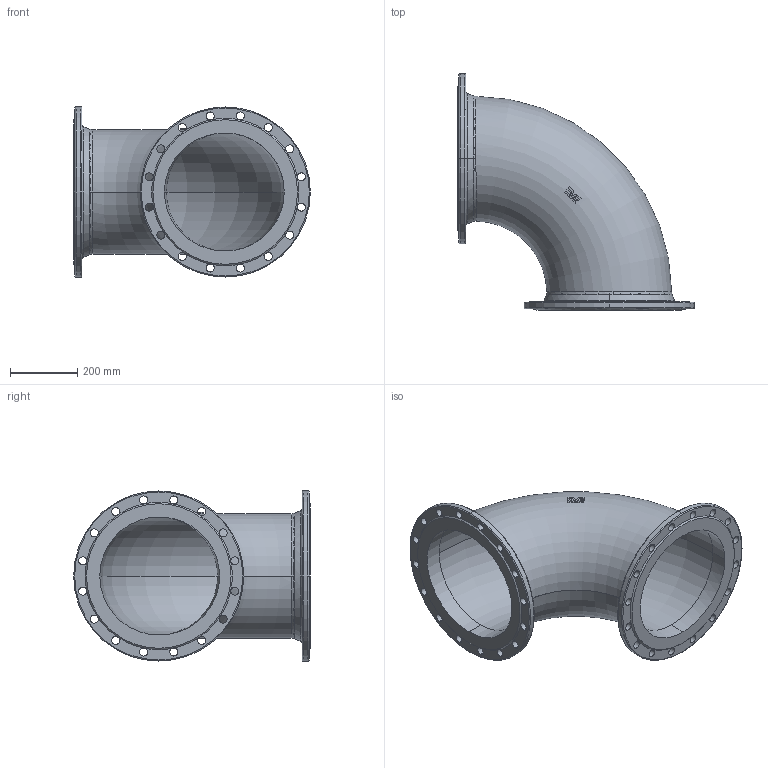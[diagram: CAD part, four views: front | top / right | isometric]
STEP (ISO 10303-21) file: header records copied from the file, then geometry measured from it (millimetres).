
FILE_DESCRIPTION (( 'STEP AP203' ), '1' );
FILE_NAME ('O_712_0610_DN350_0X_REV01.step', '2021-11-19T10:17:06', ( '' ), ( '' ), 'SwSTEP 2.0', 'SolidWorks 2019', '' );
FILE_SCHEMA (( 'CONFIG_CONTROL_DESIGN' ));
Length unit declared in the file: millimetre
Products named in the file (1): O_712_0610_DN350_0X_REV01
Bounding box: 702.5 x 702.5 x 505 mm (x, y, z)
Surface area: 2771192.6 mm2 (no closed solid volume)
Topology: 0 solids, 2 shells, 186 faces, 549 edges, 341 vertices
Faces by surface type: plane 76, cylinder 75, torus 23, cone 8, bspline 4
Entity records: 8719 total; most frequent: CARTESIAN_POINT 3418, DIRECTION 1191, ORIENTED_EDGE 1094, EDGE_CURVE 549, AXIS2_PLACEMENT_3D 520, VERTEX_POINT 341, CIRCLE 337, EDGE_LOOP 228
